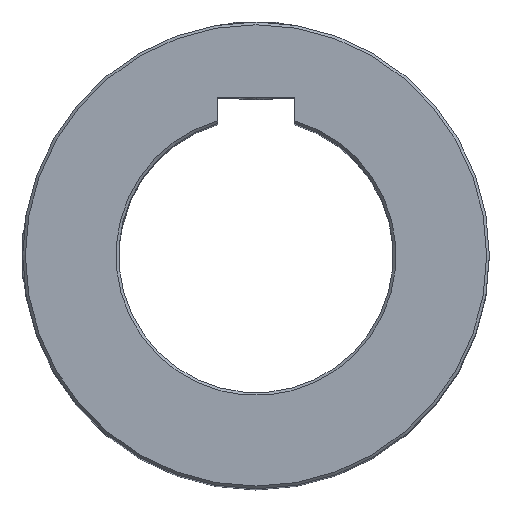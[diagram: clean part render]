
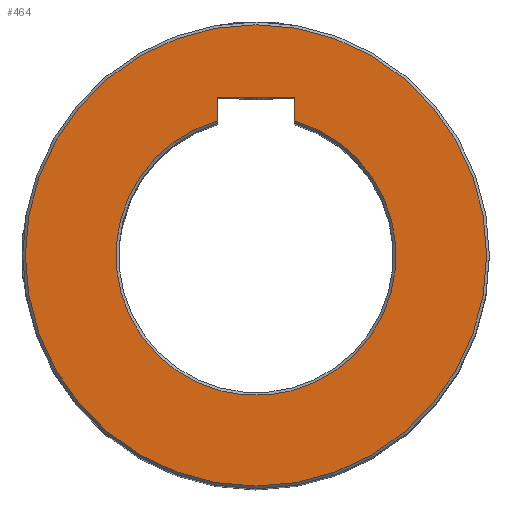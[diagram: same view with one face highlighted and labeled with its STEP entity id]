
A CAD part, top view. The second image highlights one B-rep face of the part: STEP entity #464.
In plain terms, the highlighted planar face has unit normal (0, 0, 1).
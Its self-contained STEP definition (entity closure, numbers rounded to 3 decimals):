
#301 = VERTEX_POINT ( 'NONE', #2564 ) ;
#347 = EDGE_CURVE ( 'NONE', #3758, #5830, #5984, .T. ) ;
#454 = AXIS2_PLACEMENT_3D ( 'NONE', #7255, #7815, #6607 ) ;
#464 = ADVANCED_FACE ( 'NONE', ( #812, #2267 ), #1584, .T. ) ;
#531 = CARTESIAN_POINT ( 'NONE',  ( 0., 0., 62. ) ) ;
#809 = EDGE_CURVE ( 'NONE', #301, #5424, #4875, .T. ) ;
#812 = FACE_BOUND ( 'NONE', #5792, .T. ) ;
#1180 = CARTESIAN_POINT ( 'NONE',  ( 0., 0., 62. ) ) ;
#1379 = CARTESIAN_POINT ( 'NONE',  ( -7., 28.8, 62. ) ) ;
#1476 = EDGE_CURVE ( 'NONE', #8260, #8260, #8127, .T. ) ;
#1584 = PLANE ( 'NONE',  #454 ) ;
#1686 = DIRECTION ( 'NONE',  ( 0., 1., 0. ) ) ;
#1824 = VECTOR ( 'NONE', #4102, 1000. ) ;
#1946 = CARTESIAN_POINT ( 'NONE',  ( 7., 24.52, 62. ) ) ;
#2132 = ORIENTED_EDGE ( 'NONE', *, *, #7850, .T. ) ;
#2267 = FACE_OUTER_BOUND ( 'NONE', #3993, .T. ) ;
#2419 = ORIENTED_EDGE ( 'NONE', *, *, #1476, .T. ) ;
#2564 = CARTESIAN_POINT ( 'NONE',  ( -7., 28.8, 62. ) ) ;
#3274 = DIRECTION ( 'NONE',  ( 0., 0., 1. ) ) ;
#3312 = CARTESIAN_POINT ( 'NONE',  ( -7., 24.52, 62. ) ) ;
#3579 = DIRECTION ( 'NONE',  ( -1., 0., 0. ) ) ;
#3758 = VERTEX_POINT ( 'NONE', #1946 ) ;
#3873 = VECTOR ( 'NONE', #1686, 1000. ) ;
#3985 = AXIS2_PLACEMENT_3D ( 'NONE', #531, #3274, #7620 ) ;
#3987 = DIRECTION ( 'NONE',  ( 1., 0., 0. ) ) ;
#3993 = EDGE_LOOP ( 'NONE', ( #2419 ) ) ;
#4043 = CARTESIAN_POINT ( 'NONE',  ( 42., 0., 62. ) ) ;
#4102 = DIRECTION ( 'NONE',  ( 0., -1., 0. ) ) ;
#4236 = AXIS2_PLACEMENT_3D ( 'NONE', #1180, #7588, #3987 ) ;
#4605 = CARTESIAN_POINT ( 'NONE',  ( 7., 28.8, 62. ) ) ;
#4875 = LINE ( 'NONE', #1379, #1824 ) ;
#5003 = LINE ( 'NONE', #8508, #5234 ) ;
#5073 = EDGE_CURVE ( 'NONE', #5830, #301, #5003, .T. ) ;
#5234 = VECTOR ( 'NONE', #3579, 1000. ) ;
#5424 = VERTEX_POINT ( 'NONE', #3312 ) ;
#5606 = ORIENTED_EDGE ( 'NONE', *, *, #347, .F. ) ;
#5792 = EDGE_LOOP ( 'NONE', ( #8687, #9006, #5606, #2132 ) ) ;
#5830 = VERTEX_POINT ( 'NONE', #4605 ) ;
#5984 = LINE ( 'NONE', #8825, #3873 ) ;
#6607 = DIRECTION ( 'NONE',  ( 1., 0., 0. ) ) ;
#7255 = CARTESIAN_POINT ( 'NONE',  ( 0., 0., 62. ) ) ;
#7588 = DIRECTION ( 'NONE',  ( 0., 0., -1. ) ) ;
#7620 = DIRECTION ( 'NONE',  ( 1., 0., 0. ) ) ;
#7815 = DIRECTION ( 'NONE',  ( 0., 0., 1. ) ) ;
#7850 = EDGE_CURVE ( 'NONE', #3758, #5424, #8831, .T. ) ;
#8127 = CIRCLE ( 'NONE', #3985, 42. ) ;
#8260 = VERTEX_POINT ( 'NONE', #4043 ) ;
#8508 = CARTESIAN_POINT ( 'NONE',  ( -7., 28.8, 62. ) ) ;
#8687 = ORIENTED_EDGE ( 'NONE', *, *, #809, .F. ) ;
#8825 = CARTESIAN_POINT ( 'NONE',  ( 7., 28.8, 62. ) ) ;
#8831 = CIRCLE ( 'NONE', #4236, 25.5 ) ;
#9006 = ORIENTED_EDGE ( 'NONE', *, *, #5073, .F. ) ;
